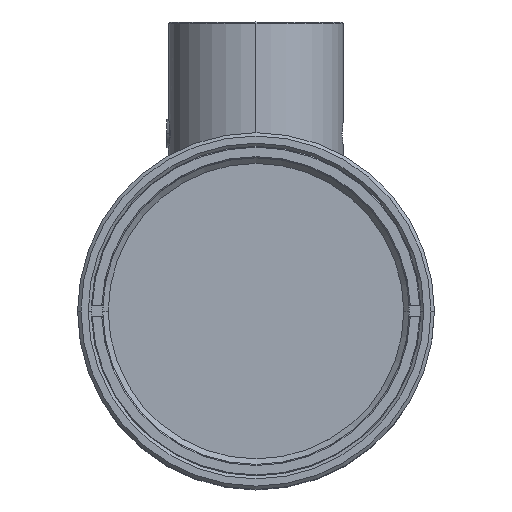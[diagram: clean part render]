
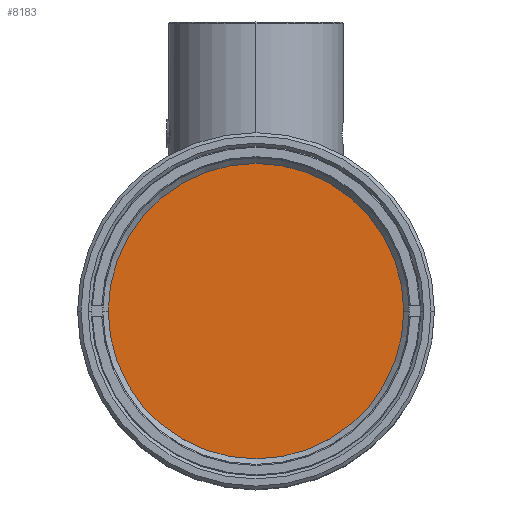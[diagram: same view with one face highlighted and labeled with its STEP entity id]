
A CAD part, top view. The second image highlights one B-rep face of the part: STEP entity #8183.
In plain terms, the highlighted planar face has unit normal (0, 0, 1).
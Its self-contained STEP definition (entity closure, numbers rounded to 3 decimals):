
#1387 = PLANE ( 'NONE',  #9715 ) ;
#1388 = CARTESIAN_POINT ( 'NONE',  ( 0., -40.784, 51.907 ) ) ;
#1389 = DIRECTION ( 'NONE',  ( 0., 0., 1. ) ) ;
#1390 = DIRECTION ( 'NONE',  ( 1., 0., 0. ) ) ;
#1665 = CARTESIAN_POINT ( 'NONE',  ( 0., 0., 51.907 ) ) ;
#1666 = DIRECTION ( 'NONE',  ( 0., 0., 1. ) ) ;
#1668 = DIRECTION ( 'NONE',  ( 1., 0., 0. ) ) ;
#5833 = EDGE_LOOP ( 'NONE', ( #6441, #6443 ) ) ;
#6441 = ORIENTED_EDGE ( 'NONE', *, *, #8256, .T. ) ;
#6443 = ORIENTED_EDGE ( 'NONE', *, *, #8796, .T. ) ;
#8183 = ADVANCED_FACE ( 'NONE', ( #8486 ), #1387, .T. ) ;
#8256 = EDGE_CURVE ( 'NONE', #11872, #11871, #9623, .T. ) ;
#8486 = FACE_OUTER_BOUND ( 'NONE', #5833, .T. ) ;
#8796 = EDGE_CURVE ( 'NONE', #11871, #11872, #9285, .T. ) ;
#9285 = CIRCLE ( 'NONE', #9288, 13.25 ) ;
#9288 = AXIS2_PLACEMENT_3D ( 'NONE', #10299, #10300, #10301 ) ;
#9623 = CIRCLE ( 'NONE', #9626, 13.25 ) ;
#9626 = AXIS2_PLACEMENT_3D ( 'NONE', #1665, #1666, #1668 ) ;
#9715 = AXIS2_PLACEMENT_3D ( 'NONE', #1388, #1389, #1390 ) ;
#10299 = CARTESIAN_POINT ( 'NONE',  ( 0., 0., 51.907 ) ) ;
#10300 = DIRECTION ( 'NONE',  ( 0., 0., 1. ) ) ;
#10301 = DIRECTION ( 'NONE',  ( 1., 0., 0. ) ) ;
#11260 = CARTESIAN_POINT ( 'NONE',  ( -13.25, 0., 51.907 ) ) ;
#11261 = CARTESIAN_POINT ( 'NONE',  ( 13.25, 0., 51.907 ) ) ;
#11871 = VERTEX_POINT ( 'NONE', #11260 ) ;
#11872 = VERTEX_POINT ( 'NONE', #11261 ) ;
